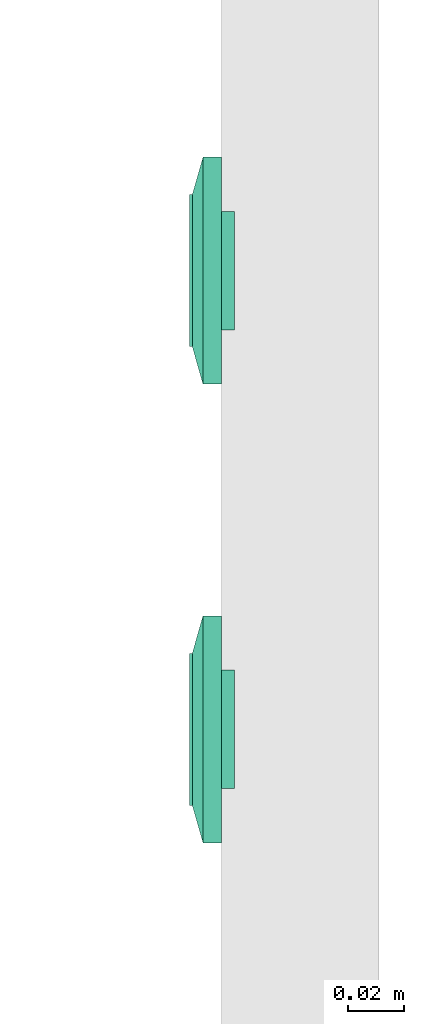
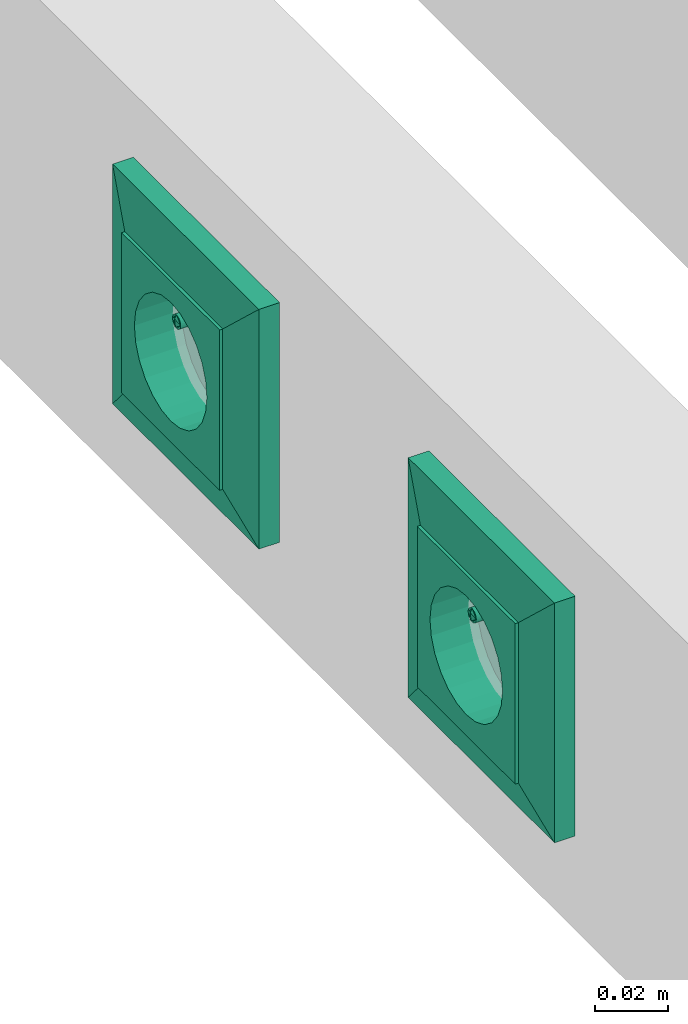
# One storey, part 68 of 166: 2 flow terminals.
"""IFC2X3 building model written with IfcOpenShell, lengths in metres."""

from ifc_helpers import new_model, entity, si_unit, converted_unit, derived_unit, direction, frame, origin, place, context, subcontext, project, spatial, face_set, surface_model, source, transform, mapped, type_object, type_shapes, element, save


model = new_model("IFC2X3")

# Units and contexts
model_context = context("Model", 3, precision=1e-05, world=origin(), true_north=direction((6.12303176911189e-17, 1.0)))
body_context = subcontext(model_context, "Body", "Model", "MODEL_VIEW")
ifc_project = project(units=[si_unit("LENGTHUNIT", "METRE"), si_unit("AREAUNIT", "SQUARE_METRE"), si_unit("VOLUMEUNIT", "CUBIC_METRE"), converted_unit("PLANEANGLEUNIT", "DEGREE", entity("IfcRatioMeasure", 0.0174532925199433), si_unit("PLANEANGLEUNIT", "RADIAN"), dimensions=[0, 0, 0, 0, 0, 0, 0]), si_unit("MASSUNIT", "GRAM", prefix="KILO"), derived_unit("MASSDENSITYUNIT", [(si_unit("MASSUNIT", "GRAM", prefix="KILO"), 1), (si_unit("LENGTHUNIT", "METRE"), -3)]), si_unit("TIMEUNIT", "SECOND"), si_unit("FREQUENCYUNIT", "HERTZ"), si_unit("THERMODYNAMICTEMPERATUREUNIT", "DEGREE_CELSIUS"), derived_unit("THERMALTRANSMITTANCEUNIT", [(si_unit("MASSUNIT", "GRAM", prefix="KILO"), 1), (si_unit("THERMODYNAMICTEMPERATUREUNIT", "KELVIN"), -1), (si_unit("TIMEUNIT", "SECOND"), -3)]), derived_unit("VOLUMETRICFLOWRATEUNIT", [(si_unit("LENGTHUNIT", "METRE"), 3), (si_unit("TIMEUNIT", "SECOND"), -1)]), si_unit("ELECTRICCURRENTUNIT", "AMPERE"), si_unit("ELECTRICVOLTAGEUNIT", "VOLT"), si_unit("POWERUNIT", "WATT"), si_unit("FORCEUNIT", "NEWTON"), si_unit("ILLUMINANCEUNIT", "LUX"), si_unit("LUMINOUSFLUXUNIT", "LUMEN"), si_unit("LUMINOUSINTENSITYUNIT", "CANDELA"), derived_unit("USERDEFINED", [(si_unit("MASSUNIT", "GRAM", prefix="KILO"), -1), (si_unit("LENGTHUNIT", "METRE"), -2), (si_unit("TIMEUNIT", "SECOND"), 3), (si_unit("LUMINOUSFLUXUNIT", "LUMEN"), 1)]), derived_unit("LINEARVELOCITYUNIT", [(si_unit("LENGTHUNIT", "METRE"), 1), (si_unit("TIMEUNIT", "SECOND"), -1)]), si_unit("PRESSUREUNIT", "PASCAL"), derived_unit("USERDEFINED", [(si_unit("LENGTHUNIT", "METRE"), -2), (si_unit("MASSUNIT", "GRAM", prefix="KILO"), 1), (si_unit("TIMEUNIT", "SECOND"), -2)])], contexts=[model_context])

# Site, building, storey
site_placement = place(None, origin())
site = spatial("IfcSite", under=ifc_project, at=site_placement, Name="Default", CompositionType="ELEMENT")
building_placement = place(site_placement, origin())
building = spatial("IfcBuilding", under=site, at=building_placement, CompositionType="ELEMENT")
storey_placement = place(building_placement, frame((0.0, 0.0, 4.27)))
storey = spatial("IfcBuildingStorey", under=building, at=storey_placement, Name="01", CompositionType="ELEMENT", Elevation=4.27)

# Flow terminals
light_fixture_type = type_object("IfcLightFixtureType", Name="IP20 ONDULEE", PredefinedType="NOTDEFINED")
shared_shape = source(origin(), body_context, "Body", "SurfaceModel", [
    surface_model("IfcFaceBasedSurfaceModel", [(-0.00225000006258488, 0.0127499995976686, 0.00949633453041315), (0.0, 0.0104999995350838, 0.00949633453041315), (0.0, 0.0115376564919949, 0.0101656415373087), (0.0, 0.0139623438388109, 0.0101656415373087), (0.0, 0.0144589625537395, 0.00984531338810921), (0.0, 0.0121178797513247, 0.0102778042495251), (0.0, 0.0133821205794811, 0.0102778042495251), (0.0, 0.0127499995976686, 0.010399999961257), (0.0, 0.0149999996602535, 0.00949633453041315), (0.00225000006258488, 0.0127499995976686, 0.00949633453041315), (0.0, 0.0110410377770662, 0.00984531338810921), (0.0, 0.0127499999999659, 0.00949633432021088), (0.00225000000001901, 0.0127499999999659, 0.00949633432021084), (0.00217333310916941, 0.0121676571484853, 0.00949633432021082), (0.00194855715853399, 0.0116249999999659, 0.00949633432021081), (0.00159099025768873, 0.0111590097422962, 0.00949633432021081), (0.001125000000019, 0.010801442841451, 0.00949633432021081), (0.00058234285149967, 0.0105766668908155, 0.00949633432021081), (0.0, 0.0104999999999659, 0.00949633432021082), (-0.000582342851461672, 0.0105766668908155, 0.00949633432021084), (-0.001124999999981, 0.010801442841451, 0.00949633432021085), (-0.00159099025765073, 0.0111590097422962, 0.00949633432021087), (-0.00194855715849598, 0.011624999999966, 0.00949633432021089), (-0.0021733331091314, 0.0121676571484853, 0.00949633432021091), (-0.00224999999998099, 0.012749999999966, 0.00949633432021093), (-0.00217333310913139, 0.0133323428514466, 0.00949633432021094), (-0.00194855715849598, 0.013874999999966, 0.00949633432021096), (-0.00159099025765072, 0.0143409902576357, 0.00949633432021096), (-0.00112499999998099, 0.0146985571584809, 0.00949633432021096), (-0.00058234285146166, 0.0149233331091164, 0.00949633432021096), (0.0, 0.0149999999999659, 0.00949633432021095), (0.000582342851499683, 0.0149233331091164, 0.00949633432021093), (0.00112500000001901, 0.0146985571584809, 0.00949633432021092), (0.00159099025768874, 0.0143409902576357, 0.00949633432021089), (0.001948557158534, 0.0138749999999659, 0.00949633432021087), (0.00217333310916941, 0.0133323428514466, 0.00949633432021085), (0.00225000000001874, 0.0127499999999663, -0.00360000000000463), (0.00217333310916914, 0.0121676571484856, -0.00360000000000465), (0.00194855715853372, 0.0116249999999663, -0.00360000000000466), (0.00159099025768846, 0.0111590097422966, -0.00360000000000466), (0.00112500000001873, 0.0108014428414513, -0.00360000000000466), (0.000582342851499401, 0.0105766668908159, -0.00360000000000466), (0.0, 0.0104999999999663, -0.00360000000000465), (-0.000582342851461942, 0.0105766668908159, -0.00360000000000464), (-0.00112499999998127, 0.0108014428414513, -0.00360000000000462), (-0.001590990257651, 0.0111590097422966, -0.0036000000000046), (-0.00194855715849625, 0.0116249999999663, -0.00360000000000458), (-0.00217333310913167, 0.0121676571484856, -0.00360000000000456), (-0.00224999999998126, 0.0127499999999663, -0.00360000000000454), (-0.00217333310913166, 0.013332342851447, -0.00360000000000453), (-0.00194855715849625, 0.0138749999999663, -0.00360000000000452), (-0.00159099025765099, 0.014340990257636, -0.00360000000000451), (-0.00112499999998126, 0.0146985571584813, -0.00360000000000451), (-0.000582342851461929, 0.0149233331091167, -0.00360000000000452), (0.0, 0.0149999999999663, -0.00360000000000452), (0.000582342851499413, 0.0149233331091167, -0.00360000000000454), (0.00112500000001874, 0.0146985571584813, -0.00360000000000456), (0.00159099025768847, 0.014340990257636, -0.00360000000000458), (0.00194855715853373, 0.0138749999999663, -0.0036000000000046), (0.00217333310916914, 0.013332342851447, -0.00360000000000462), (0.0270000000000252, 0.026999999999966, 0.0113999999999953), (-0.0269999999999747, 0.026999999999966, 0.0113999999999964), (-0.0269999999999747, -0.0270000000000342, 0.0113999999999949), (0.0270000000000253, -0.0270000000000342, 0.0113999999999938), (-0.0199999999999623, 0.0, 0.0113999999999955), (-0.0193185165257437, -0.00517638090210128, 0.0113999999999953), (-0.0173205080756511, -0.0100000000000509, 0.0113999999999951), (-0.0141421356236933, -0.0141421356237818, 0.011399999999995), (-0.00999999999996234, -0.0173205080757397, 0.0113999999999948), (-0.00517638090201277, -0.0193185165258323, 0.0113999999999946), (0.0, -0.0200000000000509, 0.0113999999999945), (0.00517638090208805, -0.0193185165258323, 0.0113999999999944), (0.0100000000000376, -0.0173205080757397, 0.0113999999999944), (0.0141421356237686, -0.0141421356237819, 0.0113999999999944), (0.0173205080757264, -0.010000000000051, 0.0113999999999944), (0.0193185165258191, -0.00517638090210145, 0.0113999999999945), (0.0200000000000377, 0.0, 0.0113999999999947), (0.0193185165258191, 0.00517638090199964, 0.0113999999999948), (0.0173205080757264, 0.0099999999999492, 0.011399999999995), (0.0141421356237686, 0.0141421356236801, 0.0113999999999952), (0.0100000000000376, 0.0173205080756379, 0.0113999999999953), (0.00517638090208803, 0.0193185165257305, 0.0113999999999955), (0.0, 0.0199999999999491, 0.0113999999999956), (-0.00517638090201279, 0.0193185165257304, 0.0113999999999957), (-0.00999999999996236, 0.0173205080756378, 0.0113999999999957), (-0.0141421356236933, 0.01414213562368, 0.0113999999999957), (-0.0173205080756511, 0.00999999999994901, 0.0113999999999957), (-0.0193185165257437, 0.00517638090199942, 0.0113999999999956), (0.0270000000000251, 0.0269999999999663, 0.00199999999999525), (0.0270000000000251, -0.0270000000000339, 0.00199999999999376), (-0.0269999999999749, -0.0270000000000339, 0.00199999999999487), (-0.0269999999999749, 0.0269999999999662, 0.00199999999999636), (0.0210000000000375, 0.0, 0.00199999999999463), (0.0202844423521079, -0.00543519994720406, 0.00199999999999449), (0.0181865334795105, -0.0105000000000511, 0.0019999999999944), (0.0148492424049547, -0.0148492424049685, 0.00199999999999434), (0.0105000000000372, -0.0181865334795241, 0.00199999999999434), (0.0054351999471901, -0.0202844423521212, 0.00199999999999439), (0.0, -0.0210000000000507, 0.00199999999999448), (-0.00543519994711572, -0.020284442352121, 0.00199999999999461), (-0.0104999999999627, -0.0181865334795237, 0.00199999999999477), (-0.0148492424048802, -0.014849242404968, 0.00199999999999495), (-0.0181865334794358, -0.0105000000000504, 0.00199999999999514), (-0.020284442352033, -0.00543519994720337, 0.00199999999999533), (-0.0209999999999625, 0.0, 0.00199999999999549), (-0.0202844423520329, 0.0054351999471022, 0.00199999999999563), (-0.0181865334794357, 0.0104999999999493, 0.00199999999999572), (-0.01484924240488, 0.0148492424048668, 0.00199999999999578), (-0.0104999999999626, 0.0181865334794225, 0.00199999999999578), (-0.00543519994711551, 0.0202844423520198, 0.00199999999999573), (0.0, 0.0209999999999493, 0.00199999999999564), (0.00543519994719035, 0.0202844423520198, 0.00199999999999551), (0.0105000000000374, 0.0181865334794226, 0.00199999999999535), (0.0148492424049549, 0.0148492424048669, 0.00199999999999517), (0.0181865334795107, 0.0104999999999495, 0.00199999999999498), (0.0202844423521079, 0.00543519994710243, 0.00199999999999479), (0.0200000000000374, 0.0, -0.00360000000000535), (0.0193185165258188, -0.00517638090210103, -0.00360000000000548), (0.0173205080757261, -0.0100000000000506, -0.00360000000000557), (0.0141421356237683, -0.0141421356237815, -0.00360000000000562), (0.0100000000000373, -0.0173205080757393, -0.00360000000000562), (0.00517638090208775, -0.0193185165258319, -0.00360000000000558), (0.0, -0.0200000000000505, -0.00360000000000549), (-0.00517638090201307, -0.0193185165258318, -0.00360000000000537), (-0.00999999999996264, -0.0173205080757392, -0.00360000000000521), (-0.0141421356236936, -0.0141421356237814, -0.00360000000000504), (-0.0173205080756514, -0.0100000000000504, -0.00360000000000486), (-0.019318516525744, -0.00517638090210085, -0.00360000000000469), (-0.0199999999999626, 0.0, -0.00360000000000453), (-0.0193185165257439, 0.00517638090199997, -0.0036000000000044), (-0.0173205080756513, 0.00999999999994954, -0.00360000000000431), (-0.0141421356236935, 0.0141421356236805, -0.00360000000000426), (-0.00999999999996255, 0.0173205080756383, -0.00360000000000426), (-0.00517638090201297, 0.0193185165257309, -0.0036000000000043), (0.0, 0.0199999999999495, -0.00360000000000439), (0.00517638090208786, 0.0193185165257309, -0.00360000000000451), (0.0100000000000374, 0.0173205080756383, -0.00360000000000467), (0.0141421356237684, 0.0141421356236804, -0.00360000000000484), (0.0173205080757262, 0.0099999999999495, -0.00360000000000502), (0.0193185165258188, 0.00517638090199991, -0.00360000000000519), (-0.0123499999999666, 0.0, -0.00360000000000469), (-0.0122562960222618, -0.000711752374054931, -0.00360000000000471), (-0.0119815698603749, -0.00137500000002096, -0.00360000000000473), (-0.0115445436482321, -0.00194454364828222, -0.00360000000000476), (-0.0109749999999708, -0.00238156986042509, -0.00360000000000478), (-0.0103117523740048, -0.00265629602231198, -0.0036000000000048), (-0.00959999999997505, -0.00275000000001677, -0.00360000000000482), (-0.0088882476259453, -0.00265629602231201, -0.00360000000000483), (-0.00822499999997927, -0.00238156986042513, -0.00360000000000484), (-0.00765545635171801, -0.00194454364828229, -0.00360000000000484), (-0.00721843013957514, -0.00137500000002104, -0.00360000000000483), (-0.00694370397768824, -0.000711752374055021, -0.00360000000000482), (-0.00684999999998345, 0.0, -0.0036000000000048), (-0.00694370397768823, 0.000711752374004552, -0.00360000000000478), (-0.00721843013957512, 0.00137499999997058, -0.00360000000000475), (-0.00765545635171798, 0.00194454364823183, -0.00360000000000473), (-0.00822499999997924, 0.00238156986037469, -0.0036000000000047), (-0.00888824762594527, 0.00265629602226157, -0.00360000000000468), (-0.00959999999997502, 0.00274999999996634, -0.00360000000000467), (-0.0103117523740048, 0.00265629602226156, -0.00360000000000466), (-0.0109749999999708, 0.00238156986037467, -0.00360000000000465), (-0.011544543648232, 0.00194454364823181, -0.00360000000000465), (-0.0119815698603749, 0.00137499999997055, -0.00360000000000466), (-0.0122562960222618, 0.000711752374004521, -0.00360000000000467), (0.00685000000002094, 0.0, -0.00360000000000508), (0.0069437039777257, -0.00071175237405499, -0.0036000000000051), (0.00721843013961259, -0.00137500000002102, -0.00360000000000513), (0.00765545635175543, -0.00194454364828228, -0.00360000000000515), (0.00822500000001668, -0.00238156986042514, -0.00360000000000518), (0.00888824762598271, -0.00265629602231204, -0.0036000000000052), (0.00960000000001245, -0.00275000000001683, -0.00360000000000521), (0.0103117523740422, -0.00265629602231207, -0.00360000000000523), (0.0109750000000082, -0.00238156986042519, -0.00360000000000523), (0.0115445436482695, -0.00194454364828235, -0.00360000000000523), (0.0119815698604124, -0.0013750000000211, -0.00360000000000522), (0.0122562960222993, -0.00071175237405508, -0.00360000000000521), (0.012350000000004, 0.0, -0.00360000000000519), (0.0122562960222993, 0.000711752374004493, -0.00360000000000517), (0.0119815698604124, 0.00137499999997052, -0.00360000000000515), (0.0115445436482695, 0.00194454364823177, -0.00360000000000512), (0.0109750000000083, 0.00238156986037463, -0.0036000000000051), (0.0103117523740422, 0.00265629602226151, -0.00360000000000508), (0.00960000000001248, 0.00274999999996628, -0.00360000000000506), (0.00888824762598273, 0.0026562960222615, -0.00360000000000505), (0.0082250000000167, 0.00238156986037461, -0.00360000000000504), (0.00765545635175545, 0.00194454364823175, -0.00360000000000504), (0.0072184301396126, 0.00137499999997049, -0.00360000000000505), (0.00694370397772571, 0.000711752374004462, -0.00360000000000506), (0.0210000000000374, 0.0, -0.00460000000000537), (0.0202844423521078, -0.00543519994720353, -0.00460000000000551), (0.0181865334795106, -0.0105000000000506, -0.0046000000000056), (0.0148492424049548, -0.0148492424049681, -0.00460000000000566), (0.0105000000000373, -0.0181865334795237, -0.00460000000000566), (0.00543519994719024, -0.0202844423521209, -0.00460000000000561), (0.0, -0.0210000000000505, -0.00460000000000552), (-0.00543519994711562, -0.0202844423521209, -0.00460000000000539), (-0.0104999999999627, -0.0181865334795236, -0.00460000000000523), (-0.0148492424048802, -0.0148492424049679, -0.00460000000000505), (-0.0181865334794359, -0.0105000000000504, -0.00460000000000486), (-0.0202844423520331, -0.00543519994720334, -0.00460000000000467), (-0.0209999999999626, 0.0, -0.00460000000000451), (-0.020284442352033, 0.00543519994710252, -0.00460000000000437), (-0.0181865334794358, 0.0104999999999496, -0.00460000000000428), (-0.0148492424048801, 0.0148492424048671, -0.00460000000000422), (-0.0104999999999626, 0.0181865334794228, -0.00460000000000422), (-0.00543519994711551, 0.02028444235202, -0.00460000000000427), (0.0, 0.0209999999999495, -0.00460000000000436), (0.00543519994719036, 0.02028444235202, -0.00460000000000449), (0.0105000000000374, 0.0181865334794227, -0.00460000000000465), (0.0148492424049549, 0.014849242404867, -0.00460000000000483), (0.0181865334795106, 0.0104999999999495, -0.00460000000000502), (0.0202844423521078, 0.00543519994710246, -0.00460000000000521), (-0.00684999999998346, 0.0, -0.0046000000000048), (-0.00694370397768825, 0.000711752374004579, -0.00460000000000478), (-0.00721843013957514, 0.00137499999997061, -0.00460000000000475), (-0.007655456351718, 0.00194454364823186, -0.00460000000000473), (-0.00822499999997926, 0.00238156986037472, -0.0046000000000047), (-0.00888824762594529, 0.0026562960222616, -0.00460000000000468), (-0.00959999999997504, 0.00274999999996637, -0.00460000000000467), (-0.0103117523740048, 0.00265629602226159, -0.00460000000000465), (-0.0109749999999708, 0.0023815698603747, -0.00460000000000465), (-0.0115445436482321, 0.00194454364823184, -0.00460000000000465), (-0.0119815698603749, 0.00137499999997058, -0.00460000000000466), (-0.0122562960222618, 0.000711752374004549, -0.00460000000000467), (-0.0123499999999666, 0.0, -0.00460000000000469), (-0.0122562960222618, -0.000711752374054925, -0.00460000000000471), (-0.0119815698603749, -0.00137500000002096, -0.00460000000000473), (-0.0115445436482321, -0.00194454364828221, -0.00460000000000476), (-0.0109749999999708, -0.00238156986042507, -0.00460000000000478), (-0.0103117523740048, -0.00265629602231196, -0.0046000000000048), (-0.00959999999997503, -0.00275000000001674, -0.00460000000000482), (-0.00888824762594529, -0.00265629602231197, -0.00460000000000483), (-0.00822499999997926, -0.00238156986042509, -0.00460000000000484), (-0.007655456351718, -0.00194454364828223, -0.00460000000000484), (-0.00721843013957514, -0.00137500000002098, -0.00460000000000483), (-0.00694370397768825, -0.000711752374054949, -0.00460000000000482), (0.012350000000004, 0.0, -0.00460000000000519), (0.0122562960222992, 0.000711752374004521, -0.00460000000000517), (0.0119815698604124, 0.00137499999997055, -0.00460000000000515), (0.0115445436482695, 0.0019445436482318, -0.00460000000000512), (0.0109750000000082, 0.00238156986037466, -0.0046000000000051), (0.0103117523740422, 0.00265629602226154, -0.00460000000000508), (0.00960000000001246, 0.00274999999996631, -0.00460000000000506), (0.00888824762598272, 0.00265629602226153, -0.00460000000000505), (0.00822500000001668, 0.00238156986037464, -0.00460000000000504), (0.00765545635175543, 0.00194454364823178, -0.00460000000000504), (0.00721843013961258, 0.00137499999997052, -0.00460000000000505), (0.00694370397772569, 0.00071175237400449, -0.00460000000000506), (0.00685000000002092, 0.0, -0.00460000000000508), (0.00694370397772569, -0.000711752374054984, -0.0046000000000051), (0.00721843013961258, -0.00137500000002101, -0.00460000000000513), (0.00765545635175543, -0.00194454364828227, -0.00460000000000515), (0.00822500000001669, -0.00238156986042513, -0.00460000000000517), (0.00888824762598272, -0.00265629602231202, -0.0046000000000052), (0.00960000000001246, -0.0027500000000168, -0.00460000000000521), (0.0103117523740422, -0.00265629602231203, -0.00460000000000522), (0.0109750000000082, -0.00238156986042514, -0.00460000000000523), (0.0115445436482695, -0.00194454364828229, -0.00460000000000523), (0.0119815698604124, -0.00137500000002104, -0.00460000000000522), (0.0122562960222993, -0.000711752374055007, -0.00460000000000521), (0.040350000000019, 0.0403499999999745, 0.00659999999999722), (0.040350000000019, -0.0403500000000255, 0.00659999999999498), (-0.0403499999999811, -0.0403500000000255, 0.00659999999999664), (-0.0403499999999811, 0.0403499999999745, 0.00659999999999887), (0.027000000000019, 0.0269999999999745, 0.00659999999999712), (-0.0269999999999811, 0.0269999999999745, 0.00659999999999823), (-0.026999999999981, -0.0270000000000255, 0.00659999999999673), (0.027000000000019, -0.0270000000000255, 0.00659999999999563), (0.027000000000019, 0.0269999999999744, 0.0103999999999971), (-0.026999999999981, 0.0269999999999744, 0.0103999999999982), (-0.026999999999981, -0.0270000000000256, 0.0103999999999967), (0.027000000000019, -0.0270000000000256, 0.0103999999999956), (0.040350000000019, 0.0403499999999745, 0.00659999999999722), (0.040350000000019, -0.0403500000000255, 0.00659999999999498), (-0.0403499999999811, -0.0403500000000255, 0.00659999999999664), (-0.0403499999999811, 0.0403499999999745, 0.00659999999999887), (-0.0269999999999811, 0.0269999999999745, 0.00659999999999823), (-0.0269999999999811, -0.0270000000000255, 0.00659999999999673), (0.0270000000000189, -0.0270000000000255, 0.00659999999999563), (0.0270000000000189, 0.0269999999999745, 0.00659999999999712), (0.0403500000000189, 0.0403499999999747, 0.0), (0.0403500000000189, -0.0403500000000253, 0.0), (-0.0403499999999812, -0.0403500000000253, 0.0), (-0.0403499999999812, 0.0403499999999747, 0.0), (0.0270000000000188, 0.0269999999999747, 0.0), (-0.0269999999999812, 0.0269999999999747, 0.0), (-0.0269999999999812, -0.0270000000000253, 0.0), (0.0270000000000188, -0.0270000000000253, 0.0)], [face_set([[[0, 1, 2]], [[3, 4, 2, 5]], [[6, 3, 5, 7]], [[2, 4, 0]], [[4, 8, 0]], [[3, 9, 8]], [[1, 9, 10]], [[2, 3, 6, 7]], [[3, 10, 9]], [[2, 10, 3]], [[11, 1, 0, 8]], [[11, 8, 9, 1]]]), face_set([[[12, 13, 14, 15, 16, 17, 18, 19, 20, 21, 22, 23, 24, 25, 26, 27, 28, 29, 30, 31, 32, 33, 34, 35]], [[36, 37, 38, 39, 40, 41, 42, 43, 44, 45, 46, 47, 48, 49, 50, 51, 52, 53, 54, 55, 56, 57, 58, 59]], [[48, 47, 23, 24]], [[47, 46, 22, 23]], [[45, 44, 20, 21]], [[46, 45, 21, 22]], [[44, 43, 19, 20]], [[18, 19, 43, 42]], [[42, 41, 17, 18]], [[41, 40, 16, 17]], [[39, 38, 14, 15]], [[40, 39, 15, 16]], [[38, 37, 13, 14]], [[12, 13, 37, 36]], [[36, 59, 35, 12]], [[59, 58, 34, 35]], [[57, 56, 32, 33]], [[58, 57, 33, 34]], [[56, 55, 31, 32]], [[30, 31, 55, 54]], [[54, 53, 29, 30]], [[53, 52, 28, 29]], [[51, 50, 26, 27]], [[52, 51, 27, 28]], [[50, 49, 25, 26]], [[24, 25, 49, 48]]]), face_set([[[60, 61, 62, 63], [64, 65, 66, 67, 68, 69, 70, 71, 72, 73, 74, 75, 76, 77, 78, 79, 80, 81, 82, 83, 84, 85, 86, 87]], [[88, 89, 90, 91], [92, 93, 94, 95, 96, 97, 98, 99, 100, 101, 102, 103, 104, 105, 106, 107, 108, 109, 110, 111, 112, 113, 114, 115]], [[61, 60, 88, 91]], [[62, 61, 91, 90]], [[63, 62, 90, 89]], [[60, 63, 89, 88]], [[116, 117, 118, 119, 120, 121, 122, 123, 124, 125, 126, 127, 128, 129, 130, 131, 132, 133, 134, 135, 136, 137, 138, 139], [140, 141, 142, 143, 144, 145, 146, 147, 148, 149, 150, 151, 152, 153, 154, 155, 156, 157, 158, 159, 160, 161, 162, 163], [164, 165, 166, 167, 168, 169, 170, 171, 172, 173, 174, 175, 176, 177, 178, 179, 180, 181, 182, 183, 184, 185, 186, 187]], [[64, 128, 127, 65]], [[65, 127, 126, 66]], [[67, 125, 124, 68]], [[66, 126, 125, 67]], [[68, 124, 123, 69]], [[122, 70, 69, 123]], [[70, 122, 121, 71]], [[71, 121, 120, 72]], [[73, 119, 118, 74]], [[72, 120, 119, 73]], [[74, 118, 117, 75]], [[116, 76, 75, 117]], [[76, 116, 139, 77]], [[77, 139, 138, 78]], [[79, 137, 136, 80]], [[78, 138, 137, 79]], [[80, 136, 135, 81]], [[134, 82, 81, 135]], [[82, 134, 133, 83]], [[83, 133, 132, 84]], [[84, 132, 131, 85]], [[85, 131, 130, 86]], [[130, 129, 87, 86]], [[64, 87, 129, 128]], [[188, 189, 190, 191, 192, 193, 194, 195, 196, 197, 198, 199, 200, 201, 202, 203, 204, 205, 206, 207, 208, 209, 210, 211], [212, 213, 214, 215, 216, 217, 218, 219, 220, 221, 222, 223, 224, 225, 226, 227, 228, 229, 230, 231, 232, 233, 234, 235], [236, 237, 238, 239, 240, 241, 242, 243, 244, 245, 246, 247, 248, 249, 250, 251, 252, 253, 254, 255, 256, 257, 258, 259]], [[200, 199, 103, 104]], [[199, 198, 102, 103]], [[197, 196, 100, 101]], [[198, 197, 101, 102]], [[196, 195, 99, 100]], [[98, 99, 195, 194]], [[194, 193, 97, 98]], [[193, 192, 96, 97]], [[191, 190, 94, 95]], [[192, 191, 95, 96]], [[190, 189, 93, 94]], [[92, 93, 189, 188]], [[188, 211, 115, 92]], [[211, 210, 114, 115]], [[209, 208, 112, 113]], [[210, 209, 113, 114]], [[208, 207, 111, 112]], [[110, 111, 207, 206]], [[206, 205, 109, 110]], [[205, 204, 108, 109]], [[203, 202, 106, 107]], [[204, 203, 107, 108]], [[202, 201, 105, 106]], [[104, 105, 201, 200]], [[141, 225, 226, 142]], [[140, 224, 225, 141]], [[144, 228, 229, 145]], [[143, 227, 228, 144]], [[142, 226, 227, 143]], [[230, 146, 145, 229]], [[149, 233, 232, 148]], [[148, 232, 231, 147]], [[152, 212, 235, 151]], [[151, 235, 234, 150]], [[150, 234, 233, 149]], [[146, 230, 231, 147]], [[154, 214, 213, 153]], [[153, 213, 212, 152]], [[157, 217, 216, 156]], [[156, 216, 215, 155]], [[155, 215, 214, 154]], [[218, 158, 157, 217]], [[160, 220, 221, 161]], [[159, 219, 220, 160]], [[163, 223, 224, 140]], [[162, 222, 223, 163]], [[161, 221, 222, 162]], [[158, 218, 219, 159]], [[166, 250, 249, 165]], [[165, 249, 248, 164]], [[169, 253, 252, 168]], [[168, 252, 251, 167]], [[167, 251, 250, 166]], [[254, 170, 169, 253]], [[172, 256, 257, 173]], [[171, 255, 256, 172]], [[175, 259, 236, 176]], [[174, 258, 259, 175]], [[173, 257, 258, 174]], [[170, 254, 255, 171]], [[177, 237, 238, 178]], [[176, 236, 237, 177]], [[180, 240, 241, 181]], [[179, 239, 240, 180]], [[178, 238, 239, 179]], [[242, 182, 181, 241]], [[185, 245, 244, 184]], [[184, 244, 243, 183]], [[164, 248, 247, 187]], [[187, 247, 246, 186]], [[186, 246, 245, 185]], [[182, 242, 243, 183]]]), face_set([[[260, 261, 262, 263], [264, 265, 266, 267]], [[260, 268, 269, 263]], [[263, 269, 270, 262]], [[262, 270, 271, 261]], [[261, 271, 268, 260]], [[264, 265, 269, 268]], [[265, 266, 270, 269]], [[266, 267, 271, 270]], [[268, 271, 267, 264]]]), face_set([[[272, 273, 274, 275], [276, 277, 278, 279]], [[280, 281, 282, 283], [284, 285, 286, 287]], [[275, 272, 280, 283]], [[274, 275, 283, 282]], [[273, 274, 282, 281]], [[272, 273, 281, 280]], [[284, 285, 276, 279]], [[285, 286, 277, 276]], [[286, 287, 278, 277]], [[279, 278, 287, 284]]])]),
])
type_shapes(light_fixture_type, [shared_shape])
for number, where, z_axis, x_axis in (
    (1, (33.3667436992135, -186.12498302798, 4.70800000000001), (-1.0, 0.0, 0.0), (0.0, -1.0, 0.0)),
    (2, (33.3667436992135, -186.28798302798, 4.70800000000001), (-1.0, 0.0, 0.0), (0.0, -1.0, 0.0)),
):
    element("IfcFlowTerminal", number, at=place(building_placement, frame(where, z_axis=z_axis, x_axis=x_axis)), inside=storey, type_object=light_fixture_type, Name="INT Prise de courant:IP20 ONDULEE", ObjectType="INT Prise de courant:IP20 ONDULEE", context=body_context, shape_type="MappedRepresentation", body=[
        mapped(shared_shape, transform((0.0, 0.0, 0.0), scale=1.0)),
    ])

save(model, "model.ifc")
